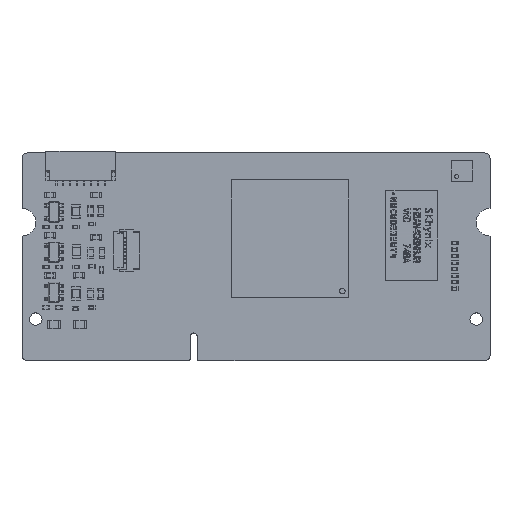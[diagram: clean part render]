
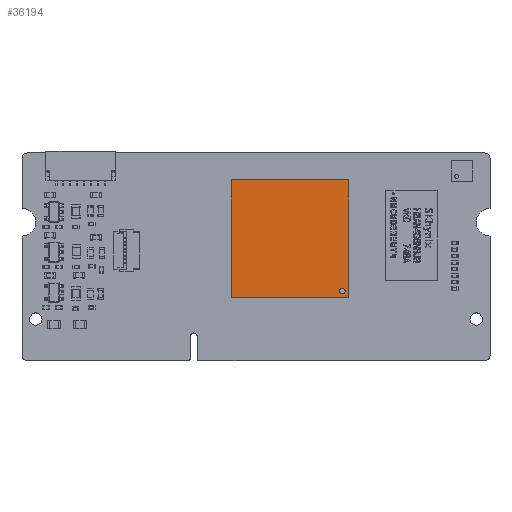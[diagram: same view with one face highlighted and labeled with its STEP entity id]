
A CAD part, top view. The second image highlights one B-rep face of the part: STEP entity #36194.
In plain terms, the highlighted planar face has unit normal (0, 0, 1).
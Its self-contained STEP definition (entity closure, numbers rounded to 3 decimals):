
#36005 = VERTEX_POINT('',#36006);
#36006 = CARTESIAN_POINT('',(-8.5,8.5,1.5));
#36013 = PLANE('',#36014);
#36014 = AXIS2_PLACEMENT_3D('',#36015,#36016,#36017);
#36015 = CARTESIAN_POINT('',(-8.5,8.5,0.4));
#36016 = DIRECTION('',(0.,-1.,0.));
#36017 = DIRECTION('',(0.,0.,1.));
#36025 = PLANE('',#36026);
#36026 = AXIS2_PLACEMENT_3D('',#36027,#36028,#36029);
#36027 = CARTESIAN_POINT('',(-8.5,8.5,0.4));
#36028 = DIRECTION('',(1.,0.,0.));
#36029 = DIRECTION('',(0.,-0.,1.));
#36066 = VERTEX_POINT('',#36067);
#36067 = CARTESIAN_POINT('',(8.5,8.5,1.5));
#36081 = PLANE('',#36082);
#36082 = AXIS2_PLACEMENT_3D('',#36083,#36084,#36085);
#36083 = CARTESIAN_POINT('',(8.5,8.5,0.4));
#36084 = DIRECTION('',(1.,0.,0.));
#36085 = DIRECTION('',(0.,-0.,1.));
#36093 = EDGE_CURVE('',#36005,#36066,#36094,.T.);
#36094 = SURFACE_CURVE('',#36095,(#36099,#36106),.PCURVE_S1.);
#36095 = LINE('',#36096,#36097);
#36096 = CARTESIAN_POINT('',(-8.5,8.5,1.5));
#36097 = VECTOR('',#36098,1.);
#36098 = DIRECTION('',(1.,0.,0.));
#36099 = PCURVE('',#36013,#36100);
#36100 = DEFINITIONAL_REPRESENTATION('',(#36101),#36105);
#36101 = LINE('',#36102,#36103);
#36102 = CARTESIAN_POINT('',(1.1,0.));
#36103 = VECTOR('',#36104,1.);
#36104 = DIRECTION('',(0.,-1.));
#36105 = ( GEOMETRIC_REPRESENTATION_CONTEXT(2) 
PARAMETRIC_REPRESENTATION_CONTEXT() REPRESENTATION_CONTEXT('2D SPACE',''
  ) );
#36106 = PCURVE('',#36107,#36112);
#36107 = PLANE('',#36108);
#36108 = AXIS2_PLACEMENT_3D('',#36109,#36110,#36111);
#36109 = CARTESIAN_POINT('',(-8.5,8.5,1.5));
#36110 = DIRECTION('',(0.,0.,1.));
#36111 = DIRECTION('',(0.,-1.,0.));
#36112 = DEFINITIONAL_REPRESENTATION('',(#36113),#36117);
#36113 = LINE('',#36114,#36115);
#36114 = CARTESIAN_POINT('',(0.,0.));
#36115 = VECTOR('',#36116,1.);
#36116 = DIRECTION('',(0.,1.));
#36117 = ( GEOMETRIC_REPRESENTATION_CONTEXT(2) 
PARAMETRIC_REPRESENTATION_CONTEXT() REPRESENTATION_CONTEXT('2D SPACE',''
  ) );
#36146 = EDGE_CURVE('',#36005,#36147,#36149,.T.);
#36147 = VERTEX_POINT('',#36148);
#36148 = CARTESIAN_POINT('',(-8.5,-8.5,1.5));
#36149 = SURFACE_CURVE('',#36150,(#36154,#36161),.PCURVE_S1.);
#36150 = LINE('',#36151,#36152);
#36151 = CARTESIAN_POINT('',(-8.5,8.5,1.5));
#36152 = VECTOR('',#36153,1.);
#36153 = DIRECTION('',(0.,-1.,0.));
#36154 = PCURVE('',#36025,#36155);
#36155 = DEFINITIONAL_REPRESENTATION('',(#36156),#36160);
#36156 = LINE('',#36157,#36158);
#36157 = CARTESIAN_POINT('',(1.1,0.));
#36158 = VECTOR('',#36159,1.);
#36159 = DIRECTION('',(0.,1.));
#36160 = ( GEOMETRIC_REPRESENTATION_CONTEXT(2) 
PARAMETRIC_REPRESENTATION_CONTEXT() REPRESENTATION_CONTEXT('2D SPACE',''
  ) );
#36161 = PCURVE('',#36107,#36162);
#36162 = DEFINITIONAL_REPRESENTATION('',(#36163),#36167);
#36163 = LINE('',#36164,#36165);
#36164 = CARTESIAN_POINT('',(0.,0.));
#36165 = VECTOR('',#36166,1.);
#36166 = DIRECTION('',(1.,0.));
#36167 = ( GEOMETRIC_REPRESENTATION_CONTEXT(2) 
PARAMETRIC_REPRESENTATION_CONTEXT() REPRESENTATION_CONTEXT('2D SPACE',''
  ) );
#36183 = PLANE('',#36184);
#36184 = AXIS2_PLACEMENT_3D('',#36185,#36186,#36187);
#36185 = CARTESIAN_POINT('',(-8.5,-8.5,0.4));
#36186 = DIRECTION('',(0.,-1.,0.));
#36187 = DIRECTION('',(0.,0.,1.));
#36194 = ADVANCED_FACE('',(#36195,#36243),#36107,.T.);
#36195 = FACE_BOUND('',#36196,.T.);
#36196 = EDGE_LOOP('',(#36197,#36198,#36199,#36222));
#36197 = ORIENTED_EDGE('',*,*,#36093,.F.);
#36198 = ORIENTED_EDGE('',*,*,#36146,.T.);
#36199 = ORIENTED_EDGE('',*,*,#36200,.T.);
#36200 = EDGE_CURVE('',#36147,#36201,#36203,.T.);
#36201 = VERTEX_POINT('',#36202);
#36202 = CARTESIAN_POINT('',(8.5,-8.5,1.5));
#36203 = SURFACE_CURVE('',#36204,(#36208,#36215),.PCURVE_S1.);
#36204 = LINE('',#36205,#36206);
#36205 = CARTESIAN_POINT('',(-8.5,-8.5,1.5));
#36206 = VECTOR('',#36207,1.);
#36207 = DIRECTION('',(1.,0.,0.));
#36208 = PCURVE('',#36107,#36209);
#36209 = DEFINITIONAL_REPRESENTATION('',(#36210),#36214);
#36210 = LINE('',#36211,#36212);
#36211 = CARTESIAN_POINT('',(17.,0.));
#36212 = VECTOR('',#36213,1.);
#36213 = DIRECTION('',(0.,1.));
#36214 = ( GEOMETRIC_REPRESENTATION_CONTEXT(2) 
PARAMETRIC_REPRESENTATION_CONTEXT() REPRESENTATION_CONTEXT('2D SPACE',''
  ) );
#36215 = PCURVE('',#36183,#36216);
#36216 = DEFINITIONAL_REPRESENTATION('',(#36217),#36221);
#36217 = LINE('',#36218,#36219);
#36218 = CARTESIAN_POINT('',(1.1,0.));
#36219 = VECTOR('',#36220,1.);
#36220 = DIRECTION('',(0.,-1.));
#36221 = ( GEOMETRIC_REPRESENTATION_CONTEXT(2) 
PARAMETRIC_REPRESENTATION_CONTEXT() REPRESENTATION_CONTEXT('2D SPACE',''
  ) );
#36222 = ORIENTED_EDGE('',*,*,#36223,.F.);
#36223 = EDGE_CURVE('',#36066,#36201,#36224,.T.);
#36224 = SURFACE_CURVE('',#36225,(#36229,#36236),.PCURVE_S1.);
#36225 = LINE('',#36226,#36227);
#36226 = CARTESIAN_POINT('',(8.5,8.5,1.5));
#36227 = VECTOR('',#36228,1.);
#36228 = DIRECTION('',(0.,-1.,0.));
#36229 = PCURVE('',#36107,#36230);
#36230 = DEFINITIONAL_REPRESENTATION('',(#36231),#36235);
#36231 = LINE('',#36232,#36233);
#36232 = CARTESIAN_POINT('',(0.,17.));
#36233 = VECTOR('',#36234,1.);
#36234 = DIRECTION('',(1.,0.));
#36235 = ( GEOMETRIC_REPRESENTATION_CONTEXT(2) 
PARAMETRIC_REPRESENTATION_CONTEXT() REPRESENTATION_CONTEXT('2D SPACE',''
  ) );
#36236 = PCURVE('',#36081,#36237);
#36237 = DEFINITIONAL_REPRESENTATION('',(#36238),#36242);
#36238 = LINE('',#36239,#36240);
#36239 = CARTESIAN_POINT('',(1.1,0.));
#36240 = VECTOR('',#36241,1.);
#36241 = DIRECTION('',(0.,1.));
#36242 = ( GEOMETRIC_REPRESENTATION_CONTEXT(2) 
PARAMETRIC_REPRESENTATION_CONTEXT() REPRESENTATION_CONTEXT('2D SPACE',''
  ) );
#36243 = FACE_BOUND('',#36244,.T.);
#36244 = EDGE_LOOP('',(#36245));
#36245 = ORIENTED_EDGE('',*,*,#36246,.T.);
#36246 = EDGE_CURVE('',#36247,#36247,#36249,.T.);
#36247 = VERTEX_POINT('',#36248);
#36248 = CARTESIAN_POINT('',(-7.58,7.18,1.5));
#36249 = SURFACE_CURVE('',#36250,(#36255,#36266),.PCURVE_S1.);
#36250 = CIRCLE('',#36251,0.4);
#36251 = AXIS2_PLACEMENT_3D('',#36252,#36253,#36254);
#36252 = CARTESIAN_POINT('',(-7.58,7.58,1.5));
#36253 = DIRECTION('',(0.,-0.,-1.));
#36254 = DIRECTION('',(0.,-1.,0.));
#36255 = PCURVE('',#36107,#36256);
#36256 = DEFINITIONAL_REPRESENTATION('',(#36257),#36265);
#36257 = ( BOUNDED_CURVE() B_SPLINE_CURVE(2,(#36258,#36259,#36260,#36261
    ,#36262,#36263,#36264),.UNSPECIFIED.,.T.,.F.) 
B_SPLINE_CURVE_WITH_KNOTS((1,2,2,2,2,1),(-2.094,0.,
    2.094,4.189,6.283,8.378),
.UNSPECIFIED.) CURVE() GEOMETRIC_REPRESENTATION_ITEM() 
RATIONAL_B_SPLINE_CURVE((1.,0.5,1.,0.5,1.,0.5,1.)) REPRESENTATION_ITEM(
  '') );
#36258 = CARTESIAN_POINT('',(1.32,0.92));
#36259 = CARTESIAN_POINT('',(1.32,0.227));
#36260 = CARTESIAN_POINT('',(0.72,0.574));
#36261 = CARTESIAN_POINT('',(0.12,0.92));
#36262 = CARTESIAN_POINT('',(0.72,1.266));
#36263 = CARTESIAN_POINT('',(1.32,1.613));
#36264 = CARTESIAN_POINT('',(1.32,0.92));
#36265 = ( GEOMETRIC_REPRESENTATION_CONTEXT(2) 
PARAMETRIC_REPRESENTATION_CONTEXT() REPRESENTATION_CONTEXT('2D SPACE',''
  ) );
#36266 = PCURVE('',#36267,#36272);
#36267 = CYLINDRICAL_SURFACE('',#36268,0.4);
#36268 = AXIS2_PLACEMENT_3D('',#36269,#36270,#36271);
#36269 = CARTESIAN_POINT('',(-7.58,7.58,1.51));
#36270 = DIRECTION('',(-0.,0.,-1.));
#36271 = DIRECTION('',(0.,-1.,-0.));
#36272 = DEFINITIONAL_REPRESENTATION('',(#36273),#36277);
#36273 = LINE('',#36274,#36275);
#36274 = CARTESIAN_POINT('',(0.,0.01));
#36275 = VECTOR('',#36276,1.);
#36276 = DIRECTION('',(1.,0.));
#36277 = ( GEOMETRIC_REPRESENTATION_CONTEXT(2) 
PARAMETRIC_REPRESENTATION_CONTEXT() REPRESENTATION_CONTEXT('2D SPACE',''
  ) );
